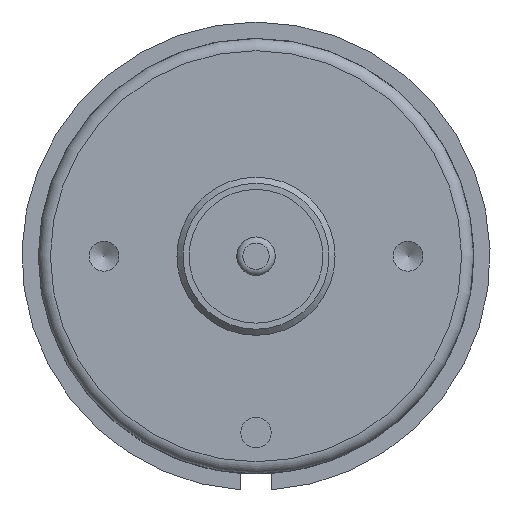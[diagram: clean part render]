
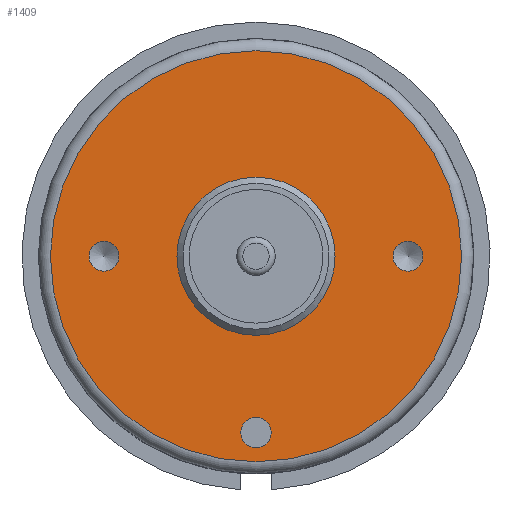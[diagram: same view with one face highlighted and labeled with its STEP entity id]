
A CAD part, front view. The second image highlights one B-rep face of the part: STEP entity #1409.
In plain terms, the highlighted planar face has unit normal (0, -1, 0).
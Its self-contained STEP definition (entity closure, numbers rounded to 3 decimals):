
#46=FACE_BOUND('',#278,.T.);
#47=FACE_BOUND('',#279,.T.);
#48=FACE_BOUND('',#280,.T.);
#49=FACE_BOUND('',#281,.T.);
#94=PLANE('',#1590);
#174=FACE_OUTER_BOUND('',#277,.T.);
#277=EDGE_LOOP('',(#1236));
#278=EDGE_LOOP('',(#1237));
#279=EDGE_LOOP('',(#1238));
#280=EDGE_LOOP('',(#1239));
#281=EDGE_LOOP('',(#1240));
#563=CIRCLE('',#1573,1.25);
#566=CIRCLE('',#1579,1.23);
#568=CIRCLE('',#1583,1.23);
#569=CIRCLE('',#1585,16.9);
#573=CIRCLE('',#1591,6.5);
#687=VERTEX_POINT('',#2378);
#691=VERTEX_POINT('',#2390);
#694=VERTEX_POINT('',#2399);
#695=VERTEX_POINT('',#2403);
#698=VERTEX_POINT('',#2414);
#863=EDGE_CURVE('',#687,#687,#563,.T.);
#868=EDGE_CURVE('',#691,#691,#566,.T.);
#872=EDGE_CURVE('',#694,#694,#568,.T.);
#874=EDGE_CURVE('',#695,#695,#569,.T.);
#880=EDGE_CURVE('',#698,#698,#573,.T.);
#1236=ORIENTED_EDGE('',*,*,#874,.F.);
#1237=ORIENTED_EDGE('',*,*,#863,.T.);
#1238=ORIENTED_EDGE('',*,*,#868,.T.);
#1239=ORIENTED_EDGE('',*,*,#872,.T.);
#1240=ORIENTED_EDGE('',*,*,#880,.T.);
#1409=ADVANCED_FACE('',(#174,#46,#47,#48,#49),#94,.T.);
#1573=AXIS2_PLACEMENT_3D('',#2379,#1969,#1970);
#1579=AXIS2_PLACEMENT_3D('',#2391,#1983,#1984);
#1583=AXIS2_PLACEMENT_3D('',#2400,#1993,#1994);
#1585=AXIS2_PLACEMENT_3D('',#2404,#1998,#1999);
#1590=AXIS2_PLACEMENT_3D('',#2413,#2010,#2011);
#1591=AXIS2_PLACEMENT_3D('',#2415,#2012,#2013);
#1969=DIRECTION('center_axis',(0.,1.,0.));
#1970=DIRECTION('ref_axis',(-1.,0.,0.));
#1983=DIRECTION('center_axis',(0.,1.,0.));
#1984=DIRECTION('ref_axis',(1.,0.,0.));
#1993=DIRECTION('center_axis',(0.,1.,0.));
#1994=DIRECTION('ref_axis',(1.,0.,0.));
#1998=DIRECTION('center_axis',(0.,1.,0.));
#1999=DIRECTION('ref_axis',(1.,0.,0.));
#2010=DIRECTION('center_axis',(0.,-1.,0.));
#2011=DIRECTION('ref_axis',(0.,0.,-1.));
#2012=DIRECTION('center_axis',(0.,1.,0.));
#2013=DIRECTION('ref_axis',(-1.,0.,0.));
#2378=CARTESIAN_POINT('',(1.25,0.,-14.5));
#2379=CARTESIAN_POINT('Origin',(0.,0.,-14.5));
#2390=CARTESIAN_POINT('',(11.271,0.,0.));
#2391=CARTESIAN_POINT('Origin',(12.5,0.,0.));
#2399=CARTESIAN_POINT('',(-13.73,0.,0.));
#2400=CARTESIAN_POINT('Origin',(-12.5,0.,0.));
#2403=CARTESIAN_POINT('',(0.,0.,16.9));
#2404=CARTESIAN_POINT('Origin',(0.,0.,0.));
#2413=CARTESIAN_POINT('Origin',(0.,0.,0.));
#2414=CARTESIAN_POINT('',(6.5,0.,0.));
#2415=CARTESIAN_POINT('Origin',(0.,0.,0.));
